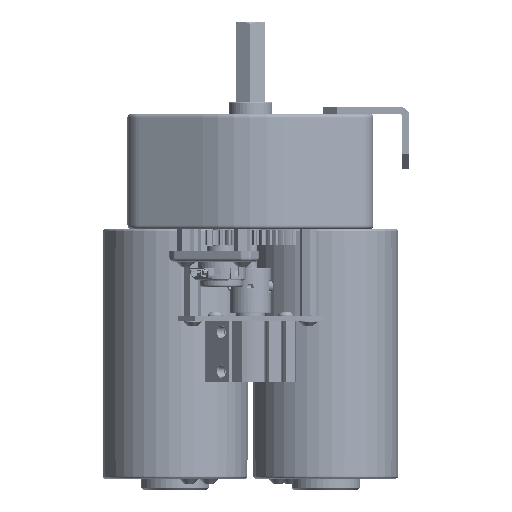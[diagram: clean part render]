
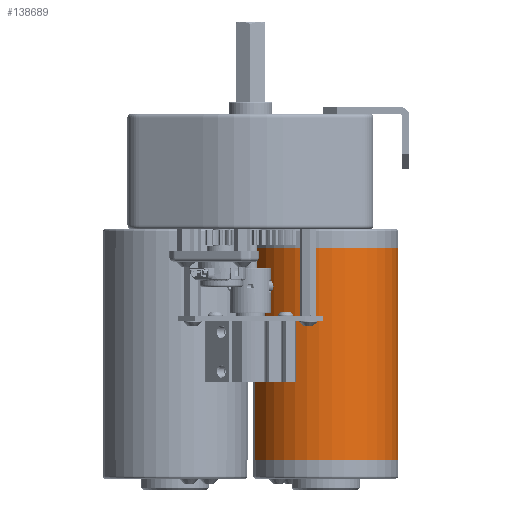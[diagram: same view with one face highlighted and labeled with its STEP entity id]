
A CAD part, front view. The second image highlights one B-rep face of the part: STEP entity #138689.
In plain terms, the highlighted cylindrical face has radius 32.004 mm (diameter 64.008 mm), a partial arc.
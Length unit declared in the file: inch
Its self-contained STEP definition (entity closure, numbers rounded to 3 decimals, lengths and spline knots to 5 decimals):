
#8301 = AXIS2_PLACEMENT_3D ( 'NONE', #172164, #172137, #172182 ) ;
#12084 = VERTEX_POINT ( 'NONE', #84796 ) ;
#13370 = AXIS2_PLACEMENT_3D ( 'NONE', #51859, #51864, #51868 ) ;
#13373 = AXIS2_PLACEMENT_3D ( 'NONE', #51873, #51877, #51880 ) ;
#16909 = LINE ( 'NONE', #51897, #16925 ) ;
#16915 = LINE ( 'NONE', #51874, #16919 ) ;
#16919 = VECTOR ( 'NONE', #51878, 39.37008 ) ;
#16925 = VECTOR ( 'NONE', #51899, 39.37008 ) ;
#37489 = CARTESIAN_POINT ( 'NONE',  ( 0.324, 0., 1.26 ) ) ;
#51859 = CARTESIAN_POINT ( 'NONE',  ( 3.99096, 0., 0. ) ) ;
#51864 = DIRECTION ( 'NONE',  ( 1., 0., 0. ) ) ;
#51868 = DIRECTION ( 'NONE',  ( 0., 0., -1. ) ) ;
#51874 = CARTESIAN_POINT ( 'NONE',  ( 0., 0., 1.26 ) ) ;
#51873 = CARTESIAN_POINT ( 'NONE',  ( 0.324, 0., 0. ) ) ;
#51878 = DIRECTION ( 'NONE',  ( 1., 0., 0. ) ) ;
#51877 = DIRECTION ( 'NONE',  ( 1., 0., 0. ) ) ;
#51880 = DIRECTION ( 'NONE',  ( 0., 0., -1. ) ) ;
#51897 = CARTESIAN_POINT ( 'NONE',  ( 0., 0., -1.26 ) ) ;
#51899 = DIRECTION ( 'NONE',  ( 1., 0., 0. ) ) ;
#55573 = CIRCLE ( 'NONE', #13370, 1.26 ) ;
#55585 = CIRCLE ( 'NONE', #13373, 1.26 ) ;
#84796 = CARTESIAN_POINT ( 'NONE',  ( 0.324, 0., -1.26 ) ) ;
#97446 = CARTESIAN_POINT ( 'NONE',  ( 3.99096, 0., -1.26 ) ) ;
#102579 = ORIENTED_EDGE ( 'NONE', *, *, #108965, .F. ) ;
#102581 = ORIENTED_EDGE ( 'NONE', *, *, #134559, .T. ) ;
#102583 = ORIENTED_EDGE ( 'NONE', *, *, #108969, .T. ) ;
#102586 = ORIENTED_EDGE ( 'NONE', *, *, #134558, .F. ) ;
#108965 = EDGE_CURVE ( 'NONE', #140239, #139128, #16915, .T. ) ;
#108969 = EDGE_CURVE ( 'NONE', #12084, #139847, #16909, .T. ) ;
#134558 = EDGE_CURVE ( 'NONE', #139128, #139847, #55573, .T. ) ;
#134559 = EDGE_CURVE ( 'NONE', #140239, #12084, #55585, .T. ) ;
#138689 = ADVANCED_FACE ( 'NONE', ( #180691 ), #180706, .T. ) ;
#139128 = VERTEX_POINT ( 'NONE', #176876 ) ;
#139847 = VERTEX_POINT ( 'NONE', #97446 ) ;
#140239 = VERTEX_POINT ( 'NONE', #37489 ) ;
#172137 = DIRECTION ( 'NONE',  ( 1., 0., 0. ) ) ;
#172164 = CARTESIAN_POINT ( 'NONE',  ( 0., 0., 0. ) ) ;
#172182 = DIRECTION ( 'NONE',  ( 0., 0., -1. ) ) ;
#176876 = CARTESIAN_POINT ( 'NONE',  ( 3.99096, 0., 1.26 ) ) ;
#180691 = FACE_OUTER_BOUND ( 'NONE', #198631, .T. ) ;
#180706 = CYLINDRICAL_SURFACE ( 'NONE', #8301, 1.26 ) ;
#198631 = EDGE_LOOP ( 'NONE', ( #102579, #102581, #102583, #102586 ) ) ;
